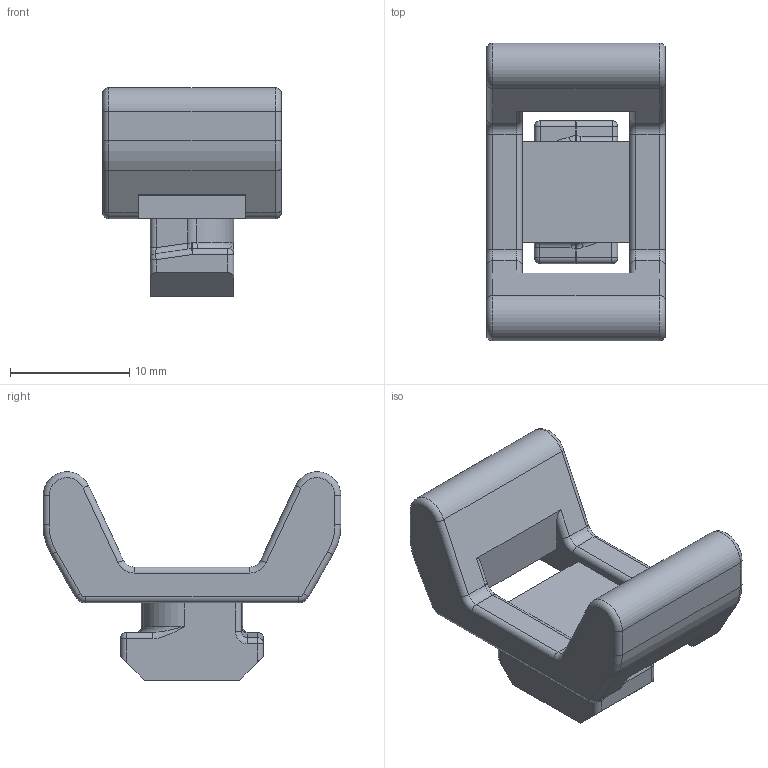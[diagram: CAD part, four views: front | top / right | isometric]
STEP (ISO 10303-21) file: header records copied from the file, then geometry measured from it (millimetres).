
FILE_DESCRIPTION (( 'STEP AP214' ), '1' );
FILE_NAME ('1.3046 Kaapelikiinnike 30.STEP', '2024-02-01T08:02:14', ( '' ), ( '' ), 'SwSTEP 2.0', 'SolidWorks 2024', '' );
FILE_SCHEMA (( 'AUTOMOTIVE_DESIGN' ));
Length unit declared in the file: millimetre
Products named in the file (1): 1.3046 Kaapelikiinnike 30
Bounding box: 15 x 25 x 17.5 mm (x, y, z)
Volume: 2147.3 mm3; surface area: 1653.9 mm2
Topology: 1 solids, 1 shells, 129 faces, 330 edges, 192 vertices
Faces by surface type: cylinder 56, plane 35, torus 24, bspline 8, sphere 6
Entity records: 4104 total; most frequent: CARTESIAN_POINT 1032, DIRECTION 656, ORIENTED_EDGE 644, EDGE_CURVE 322, AXIS2_PLACEMENT_3D 248, VERTEX_POINT 192, LINE 160, VECTOR 160
